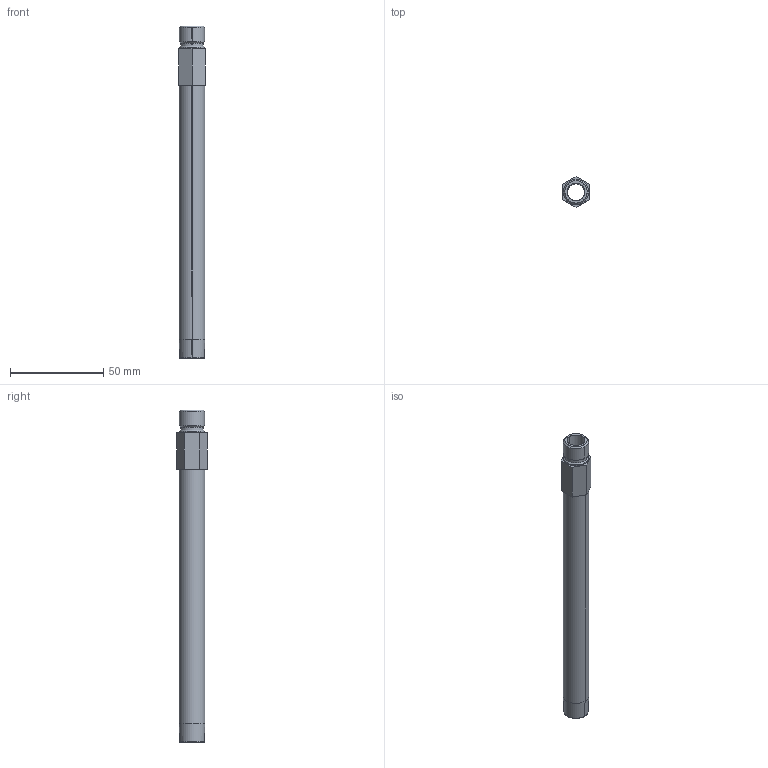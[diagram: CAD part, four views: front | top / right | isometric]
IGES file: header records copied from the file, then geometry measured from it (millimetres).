
Start section: SolidWorks IGES file using analytic representation for surfaces
Global section: file name: C:\Users\365admin\AppData\Local\Temp\InFlowConvert3DWorking\352L7-BSP.igs; native system: SolidWorks 2020; preprocessor: SolidWorks 2020; author: 365admin; date: 230309.012805; units: inch
Bounding box: 14.22 x 16.42 x 177.8 mm (x, y, z)
Surface area: 13136.3 mm2 (no closed solid volume)
Topology: 0 solids, 0 shells, 31 faces, 372 edges, 372 vertices
Faces by surface type: revolution 20, bspline 11
